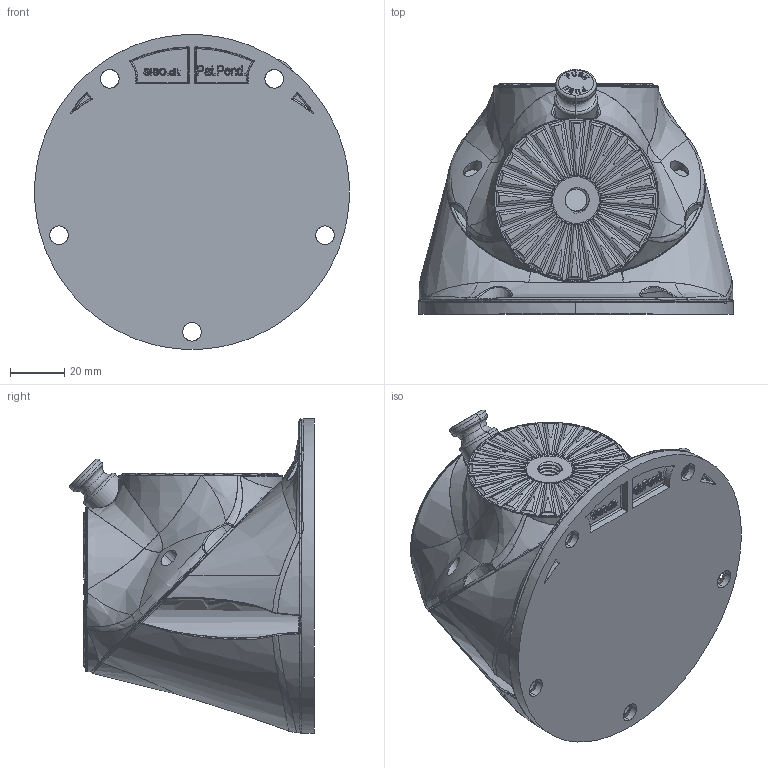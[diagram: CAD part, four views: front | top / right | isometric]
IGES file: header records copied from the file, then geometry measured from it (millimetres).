
Start section: 3D InterOp IGES (v. 2022 1.0.1), Spatial Corp. Copyright (c) 1999-2020.
Global section: file name: B137_A_06.11.050 Curly leg bracket.igs; native system: Spatial Corp.; preprocessor: 3D InterOp GENERIC/IGES 3.0; author: Noname; organization: Noname; date: 20251208.163310; units: millimetre
Bounding box: 116 x 90.07 x 116 mm (x, y, z)
Surface area: 60802.5 mm2 (no closed solid volume)
Topology: 0 solids, 0 shells, 1019 faces, 9271 edges, 9222 vertices
Faces by surface type: bspline 406, revolution 328, extrusion 285
